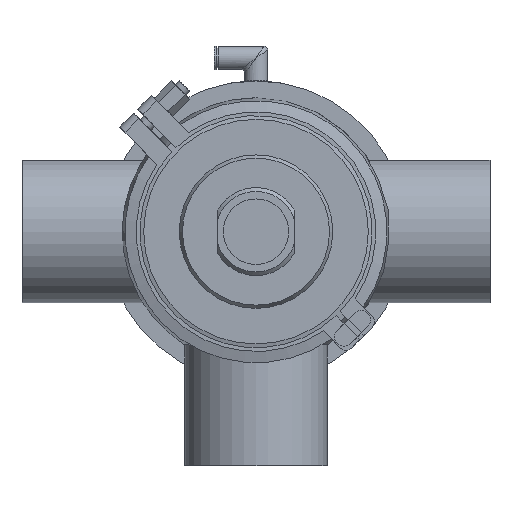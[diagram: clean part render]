
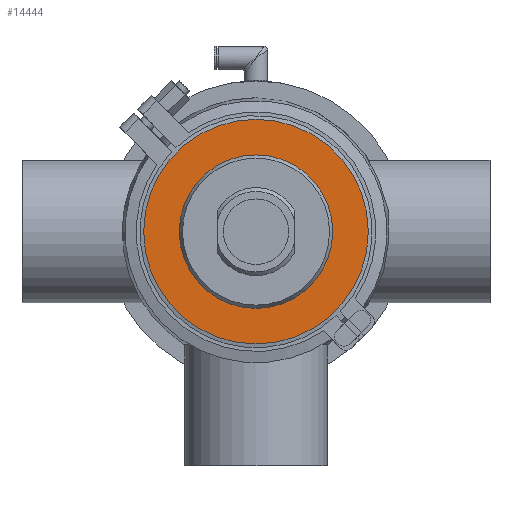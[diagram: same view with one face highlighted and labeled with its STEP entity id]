
A CAD part, front view. The second image highlights one B-rep face of the part: STEP entity #14444.
In plain terms, the highlighted planar face has unit normal (0, -1, 0).
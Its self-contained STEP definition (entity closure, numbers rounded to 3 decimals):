
#444 = ORIENTED_EDGE ( 'NONE', *, *, #18833, .T. ) ;
#1178 = CIRCLE ( 'NONE', #21584, 60. ) ;
#6128 = VERTEX_POINT ( 'NONE', #9730 ) ;
#6425 = DIRECTION ( 'NONE',  ( 0., -1., 0. ) ) ;
#7091 = DIRECTION ( 'NONE',  ( 0., 1., 0. ) ) ;
#7984 = VERTEX_POINT ( 'NONE', #20328 ) ;
#8365 = CARTESIAN_POINT ( 'NONE',  ( 0., -13., 0. ) ) ;
#9730 = CARTESIAN_POINT ( 'NONE',  ( 0., -13., 60. ) ) ;
#9914 = CARTESIAN_POINT ( 'NONE',  ( 0., -13., 0. ) ) ;
#9941 = EDGE_LOOP ( 'NONE', ( #444 ) ) ;
#10145 = DIRECTION ( 'NONE',  ( 0., 0., 1. ) ) ;
#11669 = PLANE ( 'NONE',  #22680 ) ;
#12114 = FACE_BOUND ( 'NONE', #9941, .T. ) ;
#12435 = DIRECTION ( 'NONE',  ( 0., 0., 1. ) ) ;
#14444 = ADVANCED_FACE ( 'NONE', ( #12114, #20625 ), #11669, .T. ) ;
#14577 = EDGE_CURVE ( 'NONE', #6128, #6128, #1178, .T. ) ;
#15392 = EDGE_LOOP ( 'NONE', ( #19842 ) ) ;
#17012 = CARTESIAN_POINT ( 'NONE',  ( -60., -13., 0. ) ) ;
#17124 = DIRECTION ( 'NONE',  ( 0., 0., -1. ) ) ;
#18833 = EDGE_CURVE ( 'NONE', #7984, #7984, #22046, .T. ) ;
#19842 = ORIENTED_EDGE ( 'NONE', *, *, #14577, .F. ) ;
#20328 = CARTESIAN_POINT ( 'NONE',  ( 0., -13., 41. ) ) ;
#20625 = FACE_OUTER_BOUND ( 'NONE', #15392, .T. ) ;
#21291 = AXIS2_PLACEMENT_3D ( 'NONE', #8365, #7091, #12435 ) ;
#21584 = AXIS2_PLACEMENT_3D ( 'NONE', #9914, #22252, #10145 ) ;
#22046 = CIRCLE ( 'NONE', #21291, 41. ) ;
#22252 = DIRECTION ( 'NONE',  ( 0., 1., 0. ) ) ;
#22680 = AXIS2_PLACEMENT_3D ( 'NONE', #17012, #6425, #17124 ) ;
